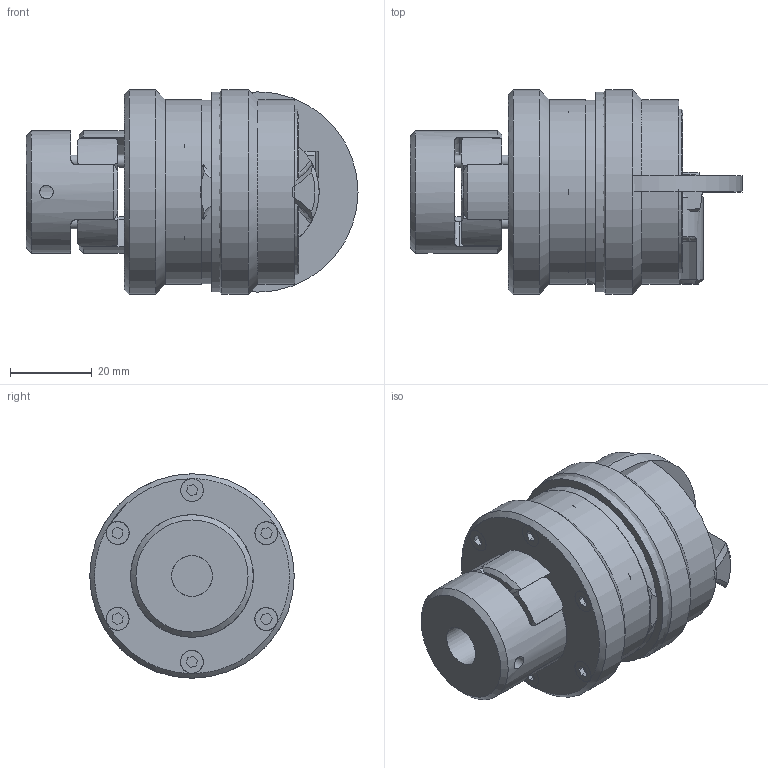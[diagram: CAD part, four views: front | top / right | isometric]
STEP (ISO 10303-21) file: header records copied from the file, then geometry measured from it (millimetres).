
FILE_DESCRIPTION( ( 'Unknown' ), '1' );
FILE_NAME( 'K:/Daten/homepage/cad - homepage/KBK-E-PK/KBK EPK 14.stp', 'Unknown', ( 'Unknown' ), ( 'Unknown' ), 'XStep 1.0', 'Unknown', ' ' );
FILE_SCHEMA( ( 'automotive_design' ) );
Length unit declared in the file: millimetre
Products named in the file (18): Assem1; Assem2; Assem3; Assem4; Zylinderschraube DIN 912_4; Zylinderschraube DIN 912; ball_bearing_-_61904_0_01; ball_bearing_-_61904_0_02; ball_bearing_-_61904_0_03; Stellring 10; Druckring 10; a_20; Flansch L-LL10; Elastomerflansch EK 10; Zahnkranz_14_Standard; KBE 1 - 14_Nabe; L-K-10 Grundteil; Klemmnabe 7-10
Bounding box: 81.2 x 50 x 50 mm (x, y, z)
Volume: 147197 mm3; surface area: 89736.4 mm2
Topology: 38 solids, 38 shells, 624 faces, 1418 edges, 912 vertices
Faces by surface type: plane 260, cylinder 226, cone 101, torus 37
Full cylindrical faces by diameter (mm): 2 x4, 2.459 x16, 3 x16, 3.242 x2, 3.3 x2, 3.4 x12, 4 x3, 4.2 x2, 5.5 x8, 5.6 x12, 6 x2, 7 x3, 7.3 x2, 10 x6, 14 x2, 15 x2, 19 x2, 20 x7, 22 x2, 24 x4, 25 x2, 25.6 x6, 29 x2, 29.993 x2, 30 x4, 31.4 x6, 37 x7, 38 x2, 40 x2, 45 x2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
Entity records: 7679 total; most frequent: CARTESIAN_POINT 1783, DIRECTION 1232, ORIENTED_EDGE 968, AXIS2_PLACEMENT_3D 555, EDGE_CURVE 484, EDGE_LOOP 402, VERTEX_POINT 356, FACE_OUTER_BOUND 332
